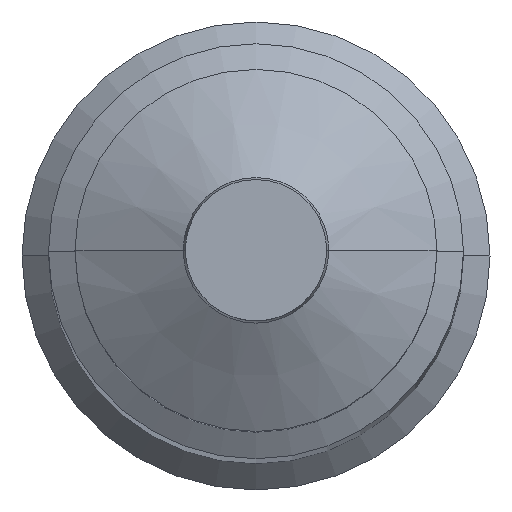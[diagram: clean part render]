
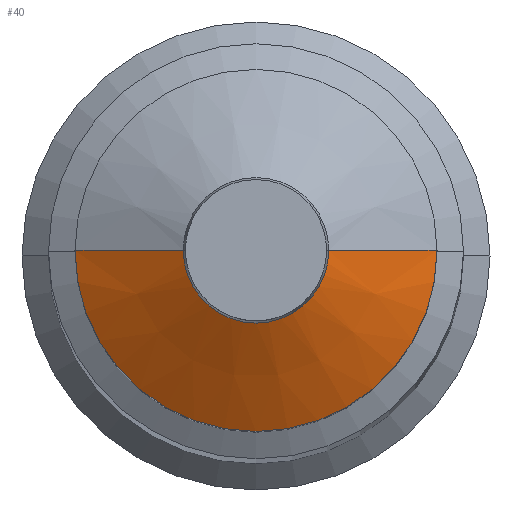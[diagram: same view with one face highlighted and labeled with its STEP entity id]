
A CAD part, top view. The second image highlights one B-rep face of the part: STEP entity #40.
In plain terms, the highlighted conical face has half-angle 60 degrees and reference radius 41 mm.
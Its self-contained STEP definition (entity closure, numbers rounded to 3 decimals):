
#40 = ADVANCED_FACE ( 'NONE', ( #11373 ), #11379, .T. ) ;
#2579 = AXIS2_PLACEMENT_3D ( 'NONE', #15405, #15406, #15407 ) ;
#7450 = EDGE_LOOP ( 'NONE', ( #7849, #7850, #7851, #7852 ) ) ;
#7849 = ORIENTED_EDGE ( 'NONE', *, *, #33438, .T. ) ;
#7850 = ORIENTED_EDGE ( 'NONE', *, *, #33439, .T. ) ;
#7851 = ORIENTED_EDGE ( 'NONE', *, *, #33440, .F. ) ;
#7852 = ORIENTED_EDGE ( 'NONE', *, *, #33441, .F. ) ;
#11373 = FACE_OUTER_BOUND ( 'NONE', #7450, .T. ) ;
#11379 = CONICAL_SURFACE ( 'NONE', #2579, 41., 1.047 ) ;
#15405 = CARTESIAN_POINT ( 'NONE',  ( 0., 0., 770.545 ) ) ;
#15406 = DIRECTION ( 'NONE',  ( 0., 0., -1. ) ) ;
#15407 = DIRECTION ( 'NONE',  ( 1., 0., 0. ) ) ;
#23572 = LINE ( 'NONE', #24418, #23574 ) ;
#23573 = CIRCLE ( 'NONE', #28889, 16.482 ) ;
#23574 = VECTOR ( 'NONE', #24419, 1000. ) ;
#23575 = LINE ( 'NONE', #24423, #23577 ) ;
#23576 = CIRCLE ( 'NONE', #28890, 41. ) ;
#23577 = VECTOR ( 'NONE', #24424, 1000. ) ;
#24343 = CARTESIAN_POINT ( 'NONE',  ( -16.482, 0., 784.7 ) ) ;
#24369 = CARTESIAN_POINT ( 'NONE',  ( 41., 0., 770.545 ) ) ;
#24370 = CARTESIAN_POINT ( 'NONE',  ( -41., 0., 770.545 ) ) ;
#24385 = CARTESIAN_POINT ( 'NONE',  ( 16.482, 0., 784.7 ) ) ;
#24415 = CARTESIAN_POINT ( 'NONE',  ( 0., 0., 784.7 ) ) ;
#24416 = DIRECTION ( 'NONE',  ( 0., 0., -1. ) ) ;
#24417 = DIRECTION ( 'NONE',  ( 1., 0., 0. ) ) ;
#24418 = CARTESIAN_POINT ( 'NONE',  ( -41., 0., 770.545 ) ) ;
#24419 = DIRECTION ( 'NONE',  ( -0.866, 0., -0.5 ) ) ;
#24420 = CARTESIAN_POINT ( 'NONE',  ( 0., 0., 770.545 ) ) ;
#24421 = DIRECTION ( 'NONE',  ( 0., 0., -1. ) ) ;
#24422 = DIRECTION ( 'NONE',  ( 1., 0., 0. ) ) ;
#24423 = CARTESIAN_POINT ( 'NONE',  ( 41., 0., 770.545 ) ) ;
#24424 = DIRECTION ( 'NONE',  ( 0.866, 0., -0.5 ) ) ;
#28889 = AXIS2_PLACEMENT_3D ( 'NONE', #24415, #24416, #24417 ) ;
#28890 = AXIS2_PLACEMENT_3D ( 'NONE', #24420, #24421, #24422 ) ;
#33381 = VERTEX_POINT ( 'NONE', #24343 ) ;
#33407 = VERTEX_POINT ( 'NONE', #24369 ) ;
#33408 = VERTEX_POINT ( 'NONE', #24370 ) ;
#33423 = VERTEX_POINT ( 'NONE', #24385 ) ;
#33438 = EDGE_CURVE ( 'NONE', #33423, #33381, #23573, .T. ) ;
#33439 = EDGE_CURVE ( 'NONE', #33381, #33408, #23572, .T. ) ;
#33440 = EDGE_CURVE ( 'NONE', #33407, #33408, #23576, .T. ) ;
#33441 = EDGE_CURVE ( 'NONE', #33423, #33407, #23575, .T. ) ;
